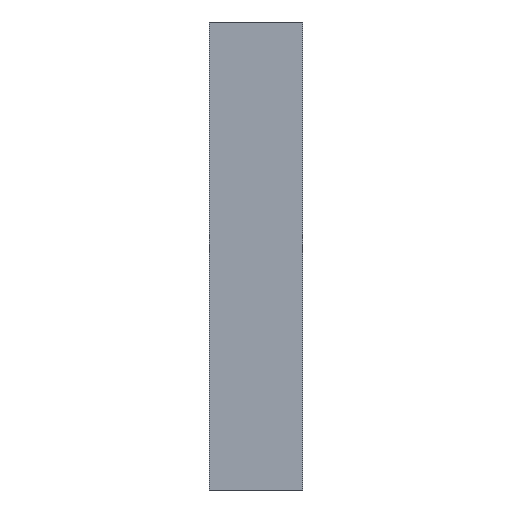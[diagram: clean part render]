
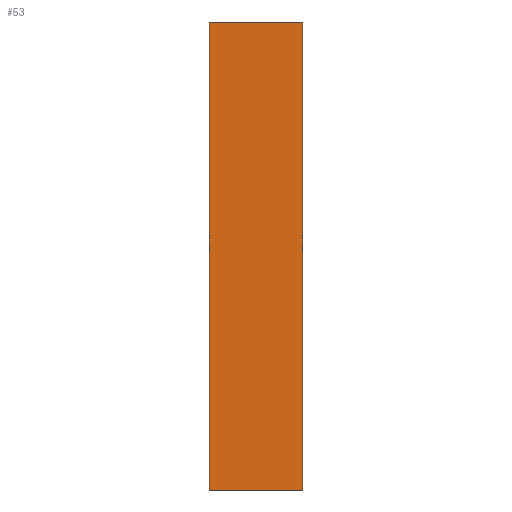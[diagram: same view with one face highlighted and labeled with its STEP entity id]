
A CAD part, left-side view. The second image highlights one B-rep face of the part: STEP entity #53.
In plain terms, the highlighted planar face has unit normal (-1, 0, 0).
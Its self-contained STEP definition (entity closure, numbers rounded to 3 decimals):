
#53=ADVANCED_FACE('',(#71),#527,.T.);
#71=FACE_OUTER_BOUND('',#89,.T.);
#89=EDGE_LOOP('',(#128,#129,#130,#131));
#128=ORIENTED_EDGE('',*,*,#364,.F.);
#129=ORIENTED_EDGE('',*,*,#368,.T.);
#130=ORIENTED_EDGE('',*,*,#369,.T.);
#131=ORIENTED_EDGE('',*,*,#370,.T.);
#196=PCURVE('',#526,#268);
#200=PCURVE('',#527,#272);
#201=PCURVE('',#527,#273);
#202=PCURVE('',#527,#274);
#203=PCURVE('',#527,#275);
#207=PCURVE('',#528,#279);
#209=PCURVE('',#529,#281);
#218=PCURVE('',#531,#290);
#268=DEFINITIONAL_REPRESENTATION('',(#425),#859);
#272=DEFINITIONAL_REPRESENTATION('',(#432),#859);
#273=DEFINITIONAL_REPRESENTATION('',(#434),#859);
#274=DEFINITIONAL_REPRESENTATION('',(#436),#859);
#275=DEFINITIONAL_REPRESENTATION('',(#438),#859);
#279=DEFINITIONAL_REPRESENTATION('',(#445),#859);
#281=DEFINITIONAL_REPRESENTATION('',(#447),#859);
#290=DEFINITIONAL_REPRESENTATION('',(#458),#859);
#328=SURFACE_CURVE('',#424,(#196,#200),.PCURVE_S1.);
#332=SURFACE_CURVE('',#433,(#201,#218),.PCURVE_S1.);
#333=SURFACE_CURVE('',#435,(#202,#207),.PCURVE_S1.);
#334=SURFACE_CURVE('',#437,(#203,#209),.PCURVE_S1.);
#364=EDGE_CURVE('',#504,#506,#328,.T.);
#368=EDGE_CURVE('',#504,#505,#332,.T.);
#369=EDGE_CURVE('',#505,#509,#333,.T.);
#370=EDGE_CURVE('',#509,#506,#334,.T.);
#424=B_SPLINE_CURVE_WITH_KNOTS('',1,(#700,#701),.UNSPECIFIED.,.F.,.F.,(2,
2),(-3280.,-3240.),.UNSPECIFIED.);
#425=B_SPLINE_CURVE_WITH_KNOTS('',1,(#702,#703),.UNSPECIFIED.,.F.,.F.,(2,
2),(-3280.,-3240.),.UNSPECIFIED.);
#432=B_SPLINE_CURVE_WITH_KNOTS('',1,(#716,#717),.UNSPECIFIED.,.F.,.F.,(2,
2),(-3280.,-3240.),.UNSPECIFIED.);
#433=B_SPLINE_CURVE_WITH_KNOTS('',1,(#718,#719),.UNSPECIFIED.,.F.,.F.,(2,
2),(0.,80.),.UNSPECIFIED.);
#434=B_SPLINE_CURVE_WITH_KNOTS('',1,(#720,#721),.UNSPECIFIED.,.F.,.F.,(2,
2),(0.,80.),.UNSPECIFIED.);
#435=B_SPLINE_CURVE_WITH_KNOTS('',1,(#722,#723),.UNSPECIFIED.,.F.,.F.,(2,
2),(-3280.,-3240.),.UNSPECIFIED.);
#436=B_SPLINE_CURVE_WITH_KNOTS('',1,(#724,#725),.UNSPECIFIED.,.F.,.F.,(2,
2),(-3280.,-3240.),.UNSPECIFIED.);
#437=B_SPLINE_CURVE_WITH_KNOTS('',1,(#726,#727),.UNSPECIFIED.,.F.,.F.,(2,
2),(-80.,0.),.UNSPECIFIED.);
#438=B_SPLINE_CURVE_WITH_KNOTS('',1,(#728,#729),.UNSPECIFIED.,.F.,.F.,(2,
2),(-80.,0.),.UNSPECIFIED.);
#445=B_SPLINE_CURVE_WITH_KNOTS('',1,(#742,#743),.UNSPECIFIED.,.F.,.F.,(2,
2),(-3280.,-3240.),.UNSPECIFIED.);
#447=B_SPLINE_CURVE_WITH_KNOTS('',1,(#746,#747),.UNSPECIFIED.,.F.,.F.,(2,
2),(-80.,0.),.UNSPECIFIED.);
#458=B_SPLINE_CURVE_WITH_KNOTS('',1,(#768,#769),.UNSPECIFIED.,.F.,.F.,(2,
2),(0.,80.),.UNSPECIFIED.);
#504=VERTEX_POINT('',#692);
#505=VERTEX_POINT('',#693);
#506=VERTEX_POINT('',#694);
#509=VERTEX_POINT('',#697);
#526=PLANE('',#564);
#527=PLANE('',#565);
#528=PLANE('',#566);
#529=PLANE('',#567);
#531=PLANE('',#569);
#564=AXIS2_PLACEMENT_3D('',#686,#585,$);
#565=AXIS2_PLACEMENT_3D('',#687,#586,$);
#566=AXIS2_PLACEMENT_3D('',#688,#587,$);
#567=AXIS2_PLACEMENT_3D('',#689,#588,$);
#569=AXIS2_PLACEMENT_3D('',#691,#590,$);
#585=DIRECTION('',(0.,1.,0.));
#586=DIRECTION('',(-1.,0.,0.));
#587=DIRECTION('',(0.,-1.,0.));
#588=DIRECTION('',(0.,0.,1.));
#590=DIRECTION('',(0.,0.,-1.));
#686=CARTESIAN_POINT('',(-650.,355.,40.));
#687=CARTESIAN_POINT('',(-650.,355.,40.));
#688=CARTESIAN_POINT('',(-650.,335.,40.));
#689=CARTESIAN_POINT('',(-650.,355.,140.));
#691=CARTESIAN_POINT('',(-610.,355.,40.));
#692=CARTESIAN_POINT('',(-650.,355.,40.));
#693=CARTESIAN_POINT('',(-650.,335.,40.));
#694=CARTESIAN_POINT('',(-650.,355.,140.));
#697=CARTESIAN_POINT('',(-650.,335.,140.));
#700=CARTESIAN_POINT('',(-650.,355.,40.));
#701=CARTESIAN_POINT('',(-650.,355.,140.));
#702=CARTESIAN_POINT('',(0.,0.));
#703=CARTESIAN_POINT('',(40.,0.));
#716=CARTESIAN_POINT('',(0.,-3280.));
#717=CARTESIAN_POINT('',(0.,-3240.));
#718=CARTESIAN_POINT('',(-650.,355.,40.));
#719=CARTESIAN_POINT('',(-650.,335.,40.));
#720=CARTESIAN_POINT('',(0.,-3280.));
#721=CARTESIAN_POINT('',(80.,-3280.));
#722=CARTESIAN_POINT('',(-650.,335.,40.));
#723=CARTESIAN_POINT('',(-650.,335.,140.));
#724=CARTESIAN_POINT('',(80.,-3280.));
#725=CARTESIAN_POINT('',(80.,-3240.));
#726=CARTESIAN_POINT('',(-650.,335.,140.));
#727=CARTESIAN_POINT('',(-650.,355.,140.));
#728=CARTESIAN_POINT('',(80.,-3240.));
#729=CARTESIAN_POINT('',(0.,-3240.));
#742=CARTESIAN_POINT('',(0.,0.));
#743=CARTESIAN_POINT('',(0.,40.));
#746=CARTESIAN_POINT('',(80.,-3240.));
#747=CARTESIAN_POINT('',(0.,-3240.));
#768=CARTESIAN_POINT('',(0.,0.));
#769=CARTESIAN_POINT('',(80.,0.));
#859=(
GEOMETRIC_REPRESENTATION_CONTEXT(2)
PARAMETRIC_REPRESENTATION_CONTEXT()
REPRESENTATION_CONTEXT('pspace','')
);
